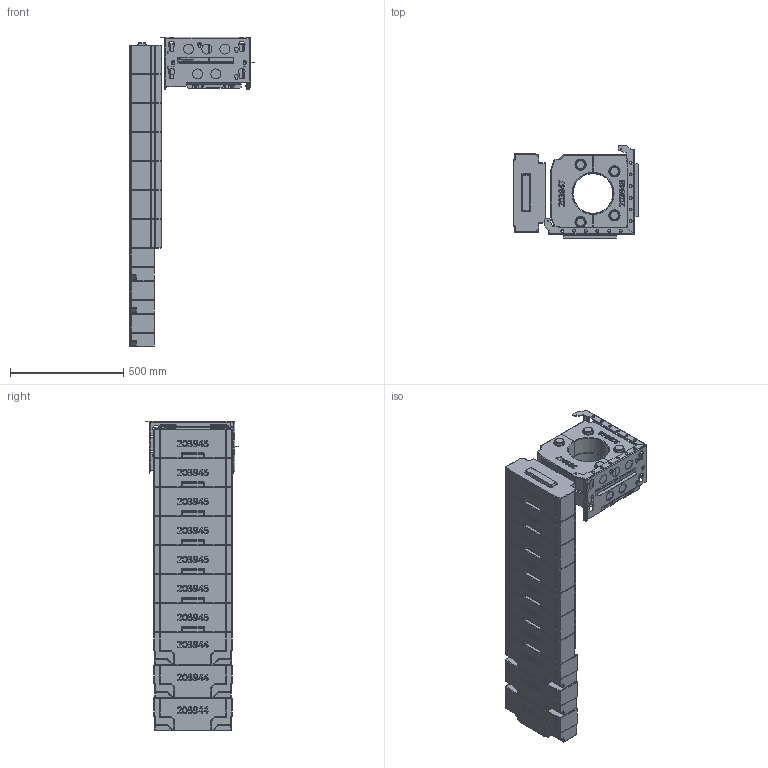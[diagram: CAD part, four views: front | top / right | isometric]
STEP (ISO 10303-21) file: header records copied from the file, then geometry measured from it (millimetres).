
FILE_DESCRIPTION(/* description */ ('Unknown'),/* implementation_level */ '2;1');
FILE_NAME(/* name */ 'Powerstone C420_C420T',/* time_stamp */ '2026-04-30T13:11:11+02:00',/* author */ ('Unknown'),/* organization */ ('Unknown'),/* preprocessor_version */ 'ST-DEVELOPER v20',/* originating_system */ 'Solid Edge',/* authorisation */ 'Unknown');
FILE_SCHEMA (('AUTOMOTIVE_DESIGN {1 0 10303 214 3 1 1}'));
Products named in the file (13): DSN1123818; DSN1123819_oa_0; DSN1132657_oa_1; DSN1129296; DSN1124826; DSN1139205; DSN1137568; DSN1137560; DSN1055289; DSN1141063; DSN1141055; DSN1139599; DSN1141247
Assembly tree (25 placements, depth 5):
  DSN1123818
    DSN1123819_oa_0
      DSN1132657_oa_1
        DSN1129296
          DSN1124826
    DSN1139205
      DSN1137568  x7
      DSN1137560  x3
    DSN1055289  x4
    DSN1141063
      DSN1141055  x2
      DSN1139599  x2
      DSN1141247
Bounding box: 551.91 x 413.91 x 1367 mm (x, y, z)
Volume: 71197419.9 mm3; surface area: 3454927.1 mm2
Topology: 20 solids, 20 shells, 3726 faces, 9286 edges, 5459 vertices
Faces by surface type: plane 1287, cylinder 1126, bspline 771, sphere 292, torus 230, cone 20
Full cylindrical faces by diameter (mm): 4.5 x12, 5 x4, 10 x4, 13 x12, 29 x8, 38 x1, 44 x10
Entity records: 61590 total; most frequent: CARTESIAN_POINT 23397, ORIENTED_EDGE 7972, DIRECTION 7279, EDGE_CURVE 3986, LINE 2593, VECTOR 2593, VERTEX_POINT 2559, AXIS2_PLACEMENT_3D 2343
